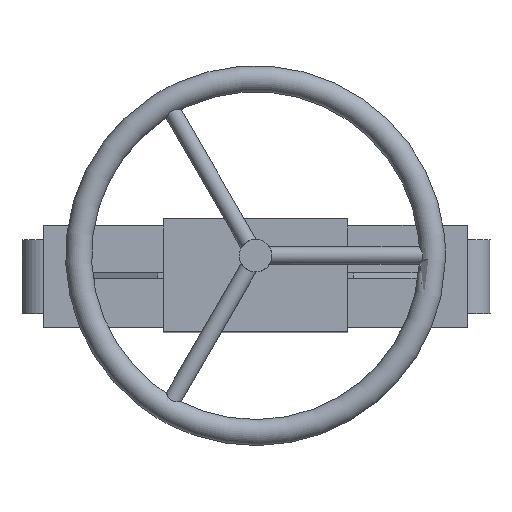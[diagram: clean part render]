
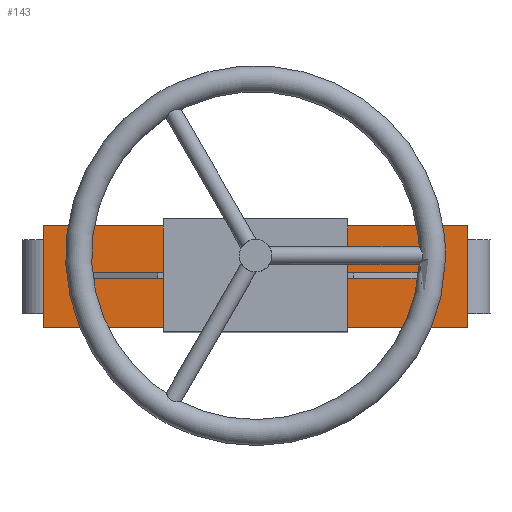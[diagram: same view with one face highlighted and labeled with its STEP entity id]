
A CAD part, top view. The second image highlights one B-rep face of the part: STEP entity #143.
In plain terms, the highlighted planar face has unit normal (0, 0, 1).
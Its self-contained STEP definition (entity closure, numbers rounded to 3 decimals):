
#143=ADVANCED_FACE('',(#1346,#1348,#1350),#1352,.T.);
#1346=FACE_BOUND('',#1347,.T.);
#1347=EDGE_LOOP('',(#2393,#2394,#2395,#2396,#2397,#2398,#2399,#2400));
#1348=FACE_BOUND('',#1349,.T.);
#1349=EDGE_LOOP('',(#2401,#2402,#2403,#2404));
#1350=FACE_BOUND('',#1351,.T.);
#1351=EDGE_LOOP('',(#2405));
#1352=PLANE('',#1353);
#1353=AXIS2_PLACEMENT_3D('',#1354,#1355,#1356);
#1354=CARTESIAN_POINT('',(0.,0.,330.));
#1355=DIRECTION('',(0.,0.,1.));
#1356=DIRECTION('',(1.,0.,0.));
#2393=ORIENTED_EDGE('',*,*,#3011,.F.);
#2394=ORIENTED_EDGE('',*,*,#3012,.T.);
#2395=ORIENTED_EDGE('',*,*,#3013,.T.);
#2396=ORIENTED_EDGE('',*,*,#3014,.T.);
#2397=ORIENTED_EDGE('',*,*,#3015,.F.);
#2398=ORIENTED_EDGE('',*,*,#3016,.T.);
#2399=ORIENTED_EDGE('',*,*,#3017,.T.);
#2400=ORIENTED_EDGE('',*,*,#3018,.T.);
#2401=ORIENTED_EDGE('',*,*,#3019,.F.);
#2402=ORIENTED_EDGE('',*,*,#3001,.F.);
#2403=ORIENTED_EDGE('',*,*,#3020,.F.);
#2404=ORIENTED_EDGE('',*,*,#2977,.F.);
#2405=ORIENTED_EDGE('',*,*,#2994,.F.);
#2977=EDGE_CURVE('',#3296,#3298,#3299,.T.);
#2994=EDGE_CURVE('',#3329,#3329,#3330,.F.);
#3001=EDGE_CURVE('',#3340,#3342,#3343,.F.);
#3011=EDGE_CURVE('',#3357,#3358,#3359,.T.);
#3012=EDGE_CURVE('',#3357,#3360,#3361,.T.);
#3013=EDGE_CURVE('',#3360,#3362,#3363,.T.);
#3014=EDGE_CURVE('',#3362,#3364,#3365,.T.);
#3015=EDGE_CURVE('',#3366,#3364,#3367,.T.);
#3016=EDGE_CURVE('',#3366,#3368,#3369,.T.);
#3017=EDGE_CURVE('',#3368,#3370,#3371,.T.);
#3018=EDGE_CURVE('',#3370,#3358,#3372,.T.);
#3019=EDGE_CURVE('',#3342,#3296,#3373,.T.);
#3020=EDGE_CURVE('',#3298,#3340,#3374,.T.);
#3296=VERTEX_POINT('',#3844);
#3298=VERTEX_POINT('',#3848);
#3299=LINE('',#3849,#3850);
#3329=VERTEX_POINT('',#3916);
#3330=CIRCLE('',#3917,15.);
#3340=VERTEX_POINT('',#3940);
#3342=VERTEX_POINT('',#3944);
#3343=LINE('',#3945,#3946);
#3357=VERTEX_POINT('',#3979);
#3358=VERTEX_POINT('',#3980);
#3359=LINE('',#3981,#3982);
#3360=VERTEX_POINT('',#3984);
#3361=LINE('',#3985,#3986);
#3362=VERTEX_POINT('',#3988);
#3363=LINE('',#3989,#3990);
#3364=VERTEX_POINT('',#3992);
#3365=LINE('',#3993,#3994);
#3366=VERTEX_POINT('',#3996);
#3367=LINE('',#3997,#3998);
#3368=VERTEX_POINT('',#4000);
#3369=LINE('',#4001,#4002);
#3370=VERTEX_POINT('',#4004);
#3371=LINE('',#4005,#4006);
#3372=LINE('',#4008,#4009);
#3373=LINE('',#4011,#4012);
#3374=LINE('',#4014,#4015);
#3844=CARTESIAN_POINT('',(-160.,-2.5,330.));
#3848=CARTESIAN_POINT('',(160.,-2.5,330.));
#3849=CARTESIAN_POINT('',(-160.,-2.5,330.));
#3850=VECTOR('',#3851,1.);
#3851=DIRECTION('',(1.,0.,0.));
#3916=CARTESIAN_POINT('',(0.,33.,330.));
#3917=AXIS2_PLACEMENT_3D('',#3918,#3919,#3920);
#3918=CARTESIAN_POINT('',(0.,18.,330.));
#3919=DIRECTION('',(-0.,-0.,-1.));
#3920=DIRECTION('',(0.,1.,0.));
#3940=CARTESIAN_POINT('',(160.,2.5,330.));
#3944=CARTESIAN_POINT('',(-160.,2.5,330.));
#3945=CARTESIAN_POINT('',(-160.,2.5,330.));
#3946=VECTOR('',#3947,1.);
#3947=DIRECTION('',(1.,0.,0.));
#3979=CARTESIAN_POINT('',(85.,-47.,330.));
#3980=CARTESIAN_POINT('',(-85.,-47.,330.));
#3981=CARTESIAN_POINT('',(85.,-47.,330.));
#3982=VECTOR('',#3983,1.);
#3983=DIRECTION('',(-1.,0.,0.));
#3984=CARTESIAN_POINT('',(195.,-47.,330.));
#3985=CARTESIAN_POINT('',(85.,-47.,330.));
#3986=VECTOR('',#3987,1.);
#3987=DIRECTION('',(1.,0.,0.));
#3988=CARTESIAN_POINT('',(195.,47.,330.));
#3989=CARTESIAN_POINT('',(195.,-47.,330.));
#3990=VECTOR('',#3991,1.);
#3991=DIRECTION('',(0.,1.,0.));
#3992=CARTESIAN_POINT('',(85.,47.,330.));
#3993=CARTESIAN_POINT('',(195.,47.,330.));
#3994=VECTOR('',#3995,1.);
#3995=DIRECTION('',(-1.,0.,0.));
#3996=CARTESIAN_POINT('',(-85.,47.,330.));
#3997=CARTESIAN_POINT('',(-85.,47.,330.));
#3998=VECTOR('',#3999,1.);
#3999=DIRECTION('',(1.,0.,0.));
#4000=CARTESIAN_POINT('',(-195.,47.,330.));
#4001=CARTESIAN_POINT('',(-85.,47.,330.));
#4002=VECTOR('',#4003,1.);
#4003=DIRECTION('',(-1.,0.,0.));
#4004=CARTESIAN_POINT('',(-195.,-47.,330.));
#4005=CARTESIAN_POINT('',(-195.,47.,330.));
#4006=VECTOR('',#4007,1.);
#4007=DIRECTION('',(0.,-1.,0.));
#4008=CARTESIAN_POINT('',(-195.,-47.,330.));
#4009=VECTOR('',#4010,1.);
#4010=DIRECTION('',(1.,0.,0.));
#4011=CARTESIAN_POINT('',(-160.,2.5,330.));
#4012=VECTOR('',#4013,1.);
#4013=DIRECTION('',(0.,-1.,0.));
#4014=CARTESIAN_POINT('',(160.,-2.5,330.));
#4015=VECTOR('',#4016,1.);
#4016=DIRECTION('',(0.,1.,0.));
